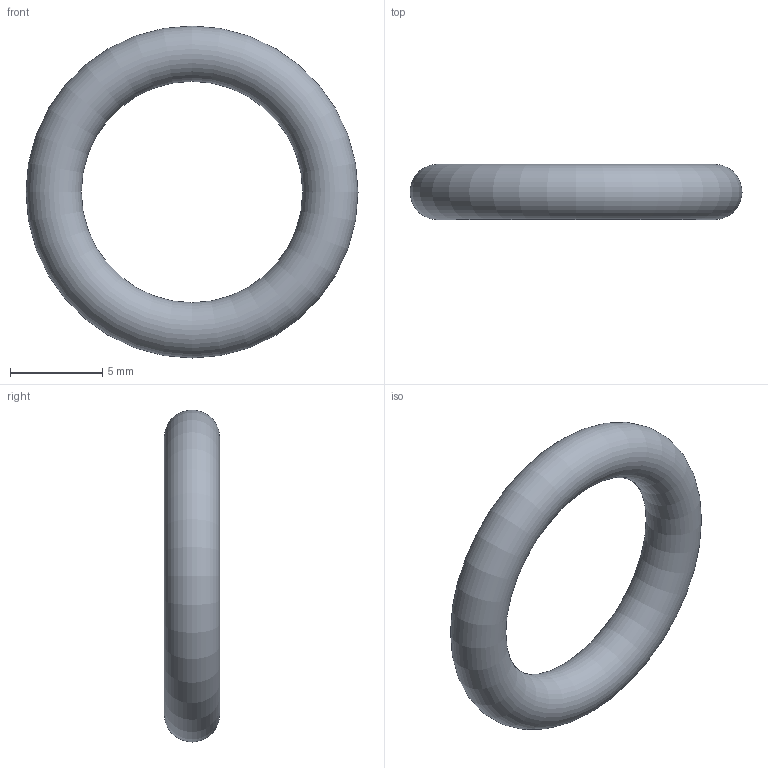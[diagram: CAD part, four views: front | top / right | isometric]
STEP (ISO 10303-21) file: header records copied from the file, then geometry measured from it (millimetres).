
FILE_DESCRIPTION( ( 'STEP AP203' ), '1' );
FILE_NAME( 'C:/Temp/Ganter_Step_05_03_2020/data/3_5/or638/O-Ring OR638-12.00-3.00-70.stp', '2020-03-12T13:44:29', ( 'License CC BY-ND 4.0' ), ( 'CADENAS' ), ' ', 'PARTsolutions', ' ' );
FILE_SCHEMA( ( 'CONFIG_CONTROL_DESIGN' ) );
Length unit declared in the file: millimetre
Products named in the file (1): _O-Ring OR638-12.00-3.00-70
Bounding box: 18 x 3 x 18 mm (x, y, z)
Volume: 333.1 mm3; surface area: 444.1 mm2
Topology: 1 solids, 1 shells, 1 faces, 2 edges, 1 vertices
Faces by surface type: torus 1
Entity records: 62 total; most frequent: CC_DESIGN_PERSON_AND_ORGANIZATION_ASSIGNMENT 5, PERSON_AND_ORGANIZATION_ROLE 4, DIRECTION 4, CARTESIAN_POINT 3, DATE_TIME_ROLE 2, CC_DESIGN_DATE_AND_TIME_ASSIGNMENT 2, AXIS2_PLACEMENT_3D 2, DIMENSIONAL_EXPONENTS 2
